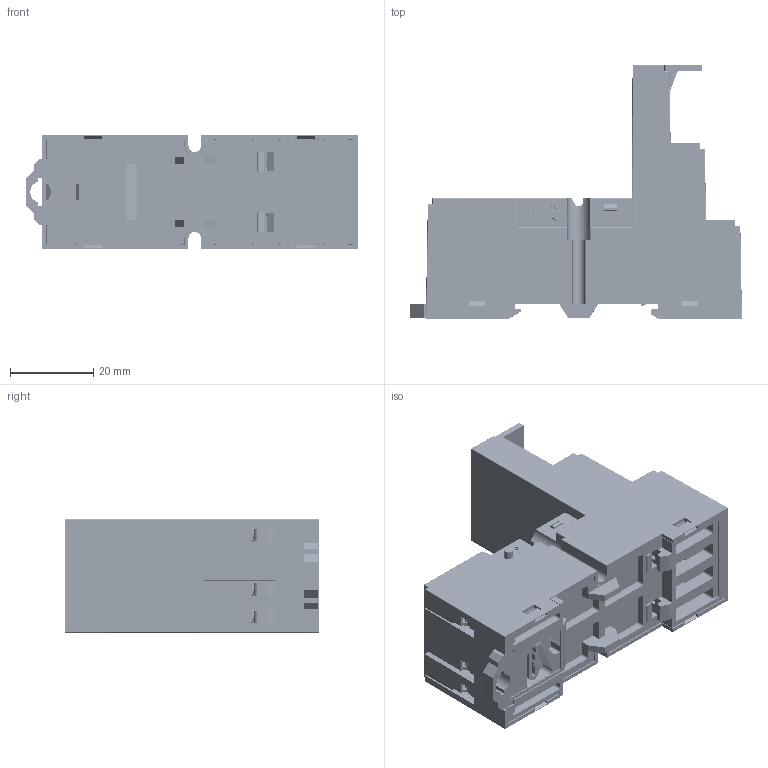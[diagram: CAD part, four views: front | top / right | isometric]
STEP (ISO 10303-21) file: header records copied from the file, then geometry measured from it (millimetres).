
FILE_DESCRIPTION(/* description */ (''),/* implementation_level */ '2;1');
FILE_NAME(/* name */ 'PGR-4C-S.stp',/* time_stamp */ '2018-09-10T11:10:44+08:00',/* author */ (''),/* organization */ (''),/* preprocessor_version */ 'ST-DEVELOPER v16.7',/* originating_system */ 'SIEMENS PLM Software NX 12.0',/* authorisation */ '');
FILE_SCHEMA (('AUTOMOTIVE_DESIGN { 1 0 10303 214 3 1 1 1 }'));
Products named in the file (22): M3X8.3; jinxianko; HT8.205.008-C5; 160; 159; 158; 157; 156; 155; 154; 153; 152; 151; 150; 149; 148; 147; 146; C5HK; C5GB; C5WK; 18F-4Z-C5
Assembly tree (49 placements, depth 2):
  18F-4Z-C5
    C5WK
    C5GB
    C5HK
    146
    147
    148
    149
    150
    151
    152
    153
    154
    155
    156
    157
    158
    159
    160
    HT8.205.008-C5
    jinxianko  x15
    M3X8.3  x15
Bounding box: 79.79 x 61.1 x 27.25 mm (x, y, z)
Volume: 32991.2 mm3; surface area: 61984.4 mm2
Topology: 49 solids, 51 shells, 7050 faces, 19876 edges, 12795 vertices
Faces by surface type: plane 5357, cylinder 1159, sphere 241, extrusion 135, cone 71, torus 57, bspline 30
Full cylindrical faces by diameter (mm): 1 x6, 1.3 x4, 2 x16, 2.18 x2, 2.4 x15, 2.5 x15, 3 x15, 3.15 x15, 3.6 x16, 3.7 x15, 4 x2, 4.5 x1, 4.9 x15, 5.2 x15
Entity records: 207273 total; most frequent: CARTESIAN_POINT 44505, ORIENTED_EDGE 32492, DIRECTION 29164, EDGE_CURVE 16246, VECTOR 11530, LINE 11395, VERTEX_POINT 10681, AXIS2_PLACEMENT_3D 8817
